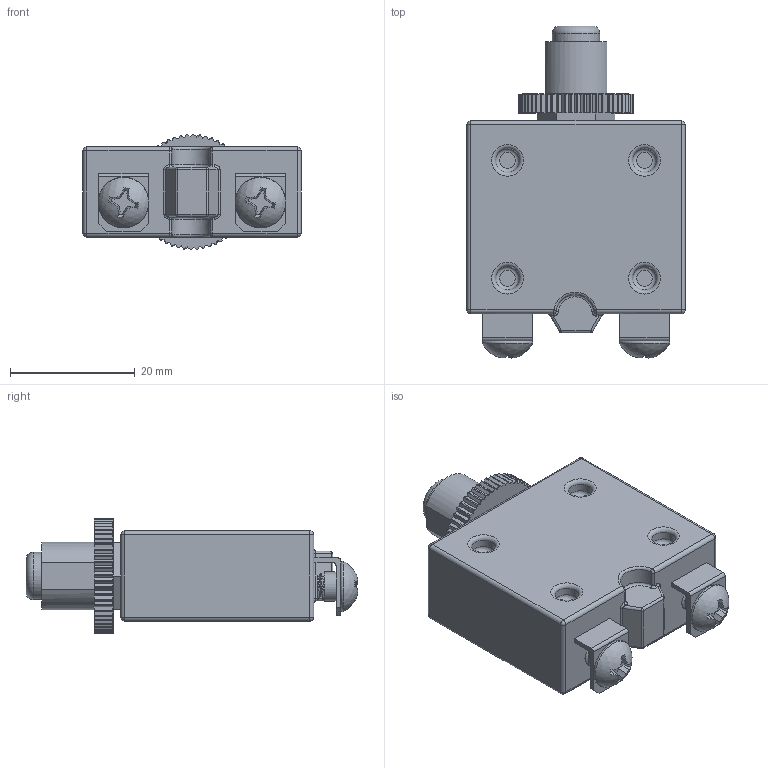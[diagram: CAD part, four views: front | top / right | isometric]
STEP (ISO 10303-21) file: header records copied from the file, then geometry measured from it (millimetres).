
FILE_DESCRIPTION(/* description */ (''),/* implementation_level */ '2;1');
FILE_NAME(/* name */ 'C:\Users\Hani\Desktop\work\CBW58-BL-40A-5X\CBW58-BL-40A-5X.stp',/* time_stamp */ '2021-01-22T12:43:44-08:00',/* author */ ('Hani'),/* organization */ (''),/* preprocessor_version */ 'ST-DEVELOPER v17',/* originating_system */ 'Autodesk Inventor 2019',/* authorisation */ '');
FILE_SCHEMA (('AUTOMOTIVE_DESIGN { 1 0 10303 214 3 1 1 }'));
Length unit declared in the file: inch
Products named in the file (7): CBW58-BL-40A-5X; CBW57-PS-20A-WP; Knurled NUT; botton; TER; TER_MIR; 8-32 Screw
Assembly tree (7 placements, depth 2):
  CBW58-BL-40A-5X
    CBW57-PS-20A-WP
    Knurled NUT
    botton
    TER
    TER_MIR
    8-32 Screw  x2
Bounding box: 35.05 x 53.31 x 18.53 mm (x, y, z)
Volume: 17692.5 mm3; surface area: 6532.2 mm2
Topology: 7 solids, 7 shells, 922 faces, 2165 edges, 1271 vertices
Faces by surface type: cylinder 411, torus 249, plane 210, bspline 30, sphere 14, cone 8
Full cylindrical faces by diameter (mm): 3.306 x8, 3.81 x6, 4.166 x8, 4.699 x2, 7.569 x1, 7.62 x1, 10.795 x1
Entity records: 28676 total; most frequent: CARTESIAN_POINT 8602, DIRECTION 4361, ORIENTED_EDGE 4068, EDGE_CURVE 2034, AXIS2_PLACEMENT_3D 1741, VERTEX_POINT 1183, EDGE_LOOP 893, LINE 879
